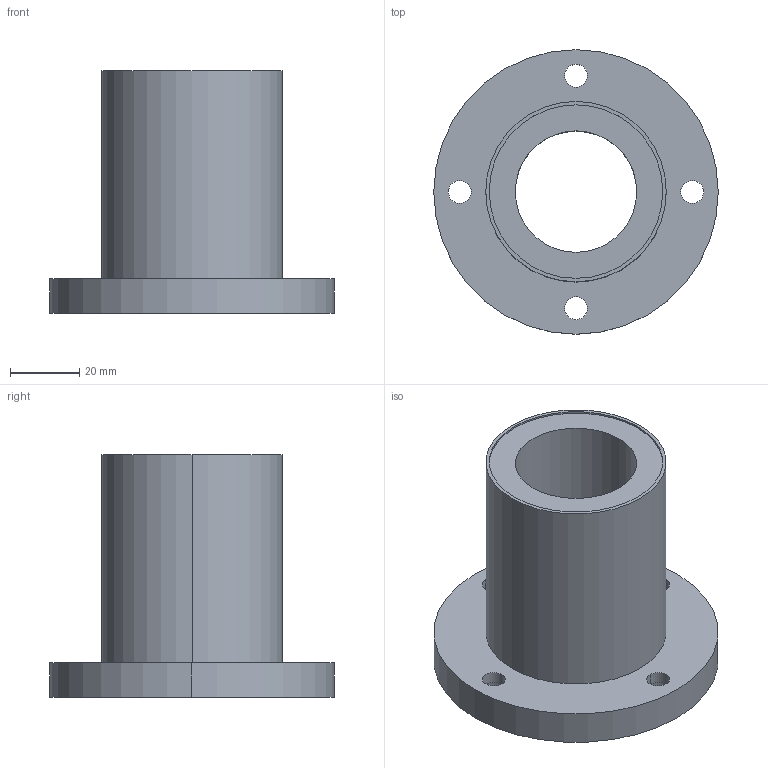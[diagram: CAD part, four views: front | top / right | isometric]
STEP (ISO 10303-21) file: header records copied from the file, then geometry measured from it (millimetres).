
FILE_DESCRIPTION((''),'2;1');
FILE_NAME('C:\Documents and Settings\ｿﾀﾀ蠑ｷ1\ｹﾙﾅﾁ ﾈｭｸ饅\ｺﾎﾇｰﾆﾄﾀﾏ\ﾁｦﾇｰ\LMF__UU\LMF35UU.stp','2005-06-15T09:38:54',('ｿﾀﾀ蠑ｷ1'),(''),'Autodesk Inventor 9','Autodesk Inventor 9','');
FILE_SCHEMA(('AUTOMOTIVE_DESIGN { 1 0 10303 214 1 1 1 1 }'));
Length unit declared in the file: millimetre
Products named in the file (1): LMF__
Bounding box: 82 x 82 x 70 mm (x, y, z)
Volume: 108785.9 mm3; surface area: 29681.4 mm2
Topology: 1 solids, 1 shells, 38 faces, 84 edges, 56 vertices
Faces by surface type: cylinder 28, plane 10
Entity records: 1127 total; most frequent: DIRECTION 218, CARTESIAN_POINT 179, ORIENTED_EDGE 168, AXIS2_PLACEMENT_3D 95, EDGE_CURVE 84, VERTEX_POINT 56, CIRCLE 56, EDGE_LOOP 56
